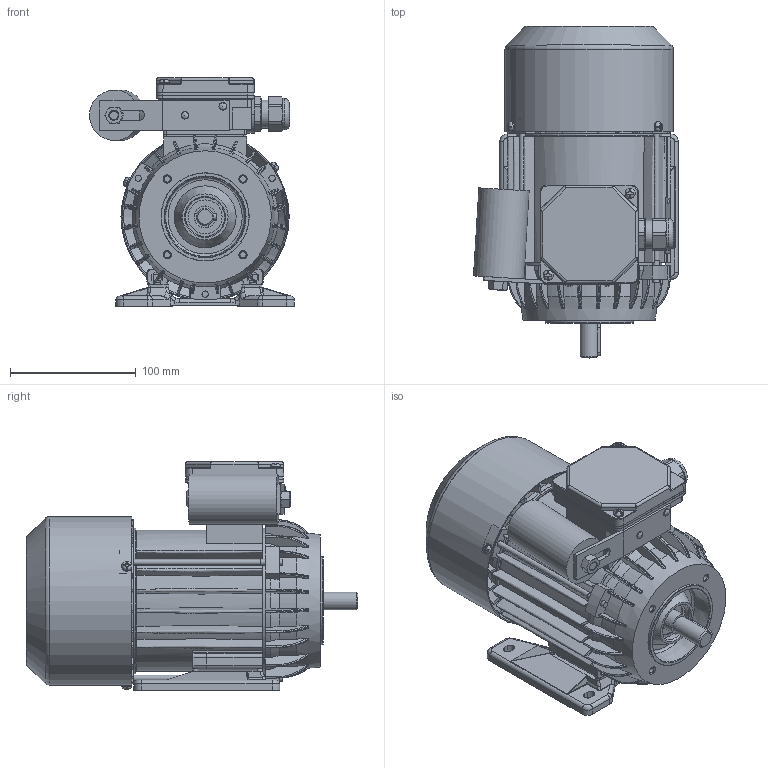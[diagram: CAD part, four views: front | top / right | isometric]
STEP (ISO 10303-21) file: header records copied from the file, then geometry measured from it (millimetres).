
FILE_DESCRIPTION(/* description */ ('Unknown'),/* implementation_level */ '2;1');
FILE_NAME(/* name */ '3SSIEL71-2B2',/* time_stamp */ '2024-06-28T13:16:38+02:00',/* author */ ('Unknown'),/* organization */ ('Unknown'),/* preprocessor_version */ 'ST-DEVELOPER v16.7',/* originating_system */ 'Solid Edge',/* authorisation */ 'Unknown');
FILE_SCHEMA (('AUTOMOTIVE_DESIGN {1 0 10303 214 3 1 1}'));
Products named in the file (26): SELh71-C2; K1-1194 Kad³ub z zamkami Sh71-.C; K3-6469 Tarcza 這篡skowa P S(E,M)h71-B,C; skrznka zaciskowa jednofazowa ; K2-1131 Podstawa skrzynki zaciskowej jednofazowa; K4-2820 Uszczelka nr 2 Sh71,80; K2-0860 Pokrywka skrzynki zaciskowej; D³awnica M20x1,5; K4-0898 Tulejka uszczelniaj¹ca; nakrêtka M8; Nit 4x12 po skróceniu; Wkrêt samogwintuj¹cy M4x16; K4-2999 Uchwyt kondensatora; K4-2320 Uszczelka nr 1 Sh71,80; Wkrêt samogwintuj¹cy M4x8; K1-1245 Tarcza ko³nierzowa B14_2 w.m. 71; Œruba œci¹gaj¹ca E_M5x130; Wpust A5x5x25; Nitoko³ek A 2x6; £o¿ysko 6203; k3-4489 Wa³ SKh71 x-2C1; Kondensator zb 11-16uF Comar; K3-3984 Przewietrznik Sh71; K3-2975 Os³ona przewietrznika Sh71-.B,C; Tabliczka znamionowa 32x44; K1-0448 ｣apa Sh71-.. 
Assembly tree (35 placements, depth 3):
  SELh71-C2
    K1-1194 Kad³ub z zamkami Sh71-.C
    K3-6469 Tarcza 這篡skowa P S(E,M)h71-B,C
    skrznka zaciskowa jednofazowa 
      K2-1131 Podstawa skrzynki zaciskowej jednofazowa
      K4-2820 Uszczelka nr 2 Sh71,80
      K2-0860 Pokrywka skrzynki zaciskowej
      D³awnica M20x1,5
      K4-0898 Tulejka uszczelniaj¹ca
      nakrêtka M8
      Nit 4x12 po skróceniu  x2
      Wkrêt samogwintuj¹cy M4x16  x2
      K4-2999 Uchwyt kondensatora
    K4-2320 Uszczelka nr 1 Sh71,80
    Wkrêt samogwintuj¹cy M4x8  x3
    K1-1245 Tarcza ko³nierzowa B14_2 w.m. 71
    Œruba œci¹gaj¹ca E_M5x130  x3
    Wpust A5x5x25
    Nitoko³ek A 2x6  x2
    £o¿ysko 6203  x2
    k3-4489 Wa³ SKh71 x-2C1
    Wkrêt samogwintuj¹cy M4x16  x2
    Kondensator zb 11-16uF Comar
    K3-3984 Przewietrznik Sh71
    K3-2975 Os³ona przewietrznika Sh71-.B,C
    Tabliczka znamionowa 32x44
    K1-0448 ｣apa Sh71-.. 
Bounding box: 162.77 x 263.5 x 181.5 mm (x, y, z)
Volume: 818426.6 mm3; surface area: 497304.7 mm2
Topology: 52 solids, 68 shells, 2885 faces, 7803 edges, 4998 vertices
Faces by surface type: plane 1168, cylinder 813, bspline 418, torus 233, cone 209, sphere 44
Full cylindrical faces by diameter (mm): 2 x2, 2.4 x2, 3 x1, 3.7 x7, 3.8 x4, 4 x9, 4.3 x2, 4.5 x3, 4.6 x3, 4.8 x4, 4.917 x4, 5 x10, 5.5 x3, 5.8 x4, 6 x2, 6.5 x1, 6.647 x1, 7 x1, 8 x12, 10 x2, 14 x1, 15.9 x1, 16.1 x1, 16.5 x1, 17 x4, 17.4 x2, 18.376 x1, 18.38 x1, 20 x1, 22 x2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
Entity records: 98701 total; most frequent: CARTESIAN_POINT 30954, ORIENTED_EDGE 13692, DIRECTION 12170, EDGE_CURVE 6846, AXIS2_PLACEMENT_3D 4645, VERTEX_POINT 4518, FACE_BOUND 3120, EDGE_LOOP 3097
